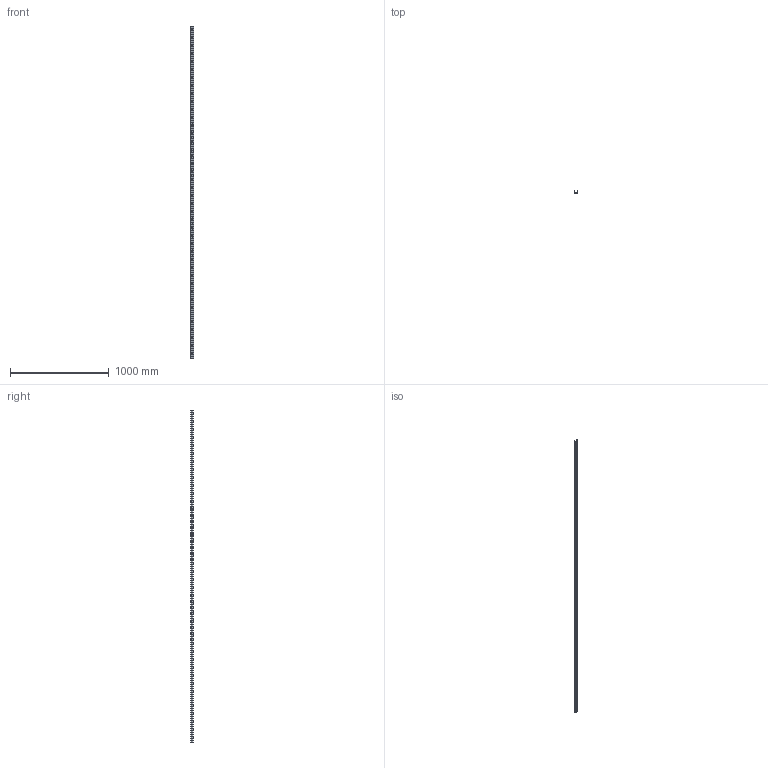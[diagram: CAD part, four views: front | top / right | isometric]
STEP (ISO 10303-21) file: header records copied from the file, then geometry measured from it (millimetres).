
FILE_DESCRIPTION(('STEP AP214'),'1');
FILE_NAME('rail_tex40-3360.stp','2019-03-08T08:33:57',('TraceParts'),('TraceParts S.A.'),'Spatial InterOp 3D',' ',' ');
FILE_SCHEMA(('automotive_design'));
Length unit declared in the file: millimetre
Products named in the file (1): rail_tex40-3360
Bounding box: 39.53 x 21 x 3360 mm (x, y, z)
Volume: 656929.9 mm3; surface area: 462644 mm2
Topology: 1 solids, 1 shells, 737 faces, 1908 edges, 1272 vertices
Faces by surface type: plane 520, bspline 121, cylinder 96
Entity records: 46873 total; most frequent: CARTESIAN_POINT 23355, ORIENTED_EDGE 3816, DIRECTION 3092, EDGE_CURVE 1908, LINE 1474, VECTOR 1474, VERTEX_POINT 1272, EDGE_LOOP 920
